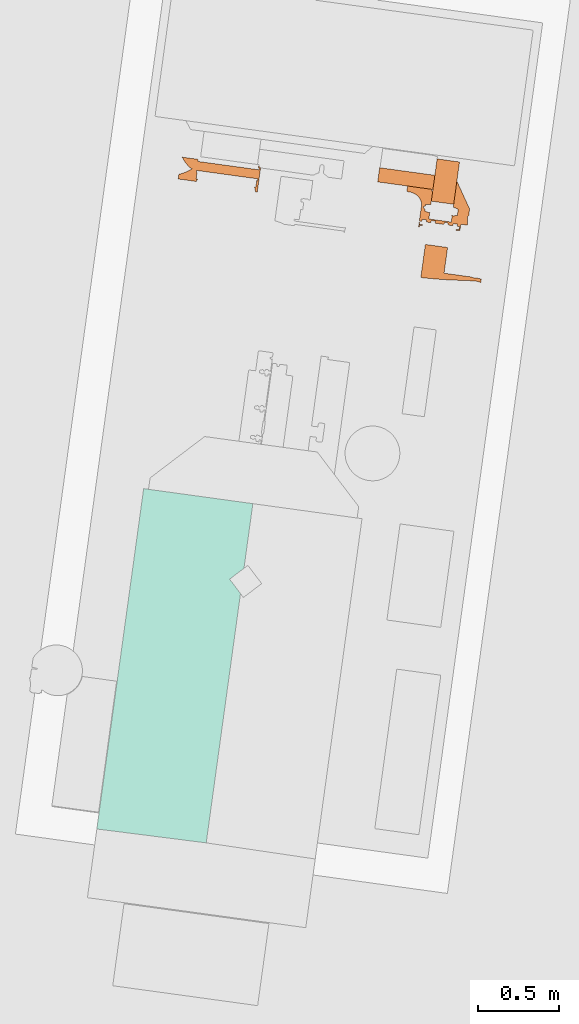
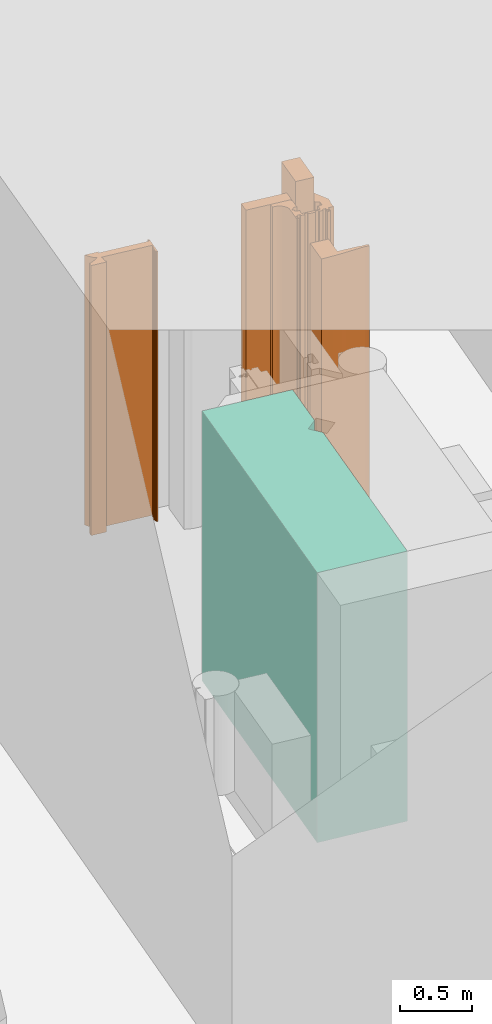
# Not in any storey, part 56 of 75: 5 proxies, plus 1 element that does not belong to this part.
"""IFC4 model written with IfcOpenShell, lengths in metres."""

import ifcopenshell
import ifcopenshell.guid

model = None  # the IFC model being written
_history = None  # IfcOwnerHistory: only IFC2X3 demands one
_inside = {}  # id of a spatial element -> (the spatial element, [elements in it])
_under = {}  # id of a project, library or spatial element -> (it, [spatial elements below it])
_declared = {}  # id of a project -> (the project, [libraries it declares])
_typed = {}  # id of a type object -> (the type object, [elements of that type])
_made_of = {}  # id of a material, layer set ... -> (it, [elements and type objects made of it])


def new_model(schema):
    """Start an empty IFC model of exactly this schema.

    Asked for "IFC4X3", IfcOpenShell would pick the latest addendum, in which some entities
    have other attributes; the version numbers below select the first issue.
    IFC2X3 requires an IfcOwnerHistory on every rooted entity: one is made here for all.
    """
    global model, _history
    if schema == "IFC4X3":
        model = ifcopenshell.file(schema_version=(4, 3, 0, 0))
    else:
        model = ifcopenshell.file(schema=schema)
    _inside.clear()
    _under.clear()
    _declared.clear()
    _typed.clear()
    _made_of.clear()
    _history = None
    if model.schema == "IFC2X3":
        org = make("IfcOrganization", Name="unknown")
        user = make(
            "IfcPersonAndOrganization",
            ThePerson=make("IfcPerson", FamilyName="unknown"),
            TheOrganization=org,
        )
        app = make(
            "IfcApplication",
            ApplicationDeveloper=org,
            Version="unknown",
            ApplicationFullName="unknown",
            ApplicationIdentifier="unknown",
        )
        _history = make(
            "IfcOwnerHistory",
            OwningUser=user,
            OwningApplication=app,
            ChangeAction="ADDED",
            CreationDate=0,
        )
    return model


def make(cls, **values):
    """One entity of the class cls with the attributes given. An attribute that is None is left unset."""
    return model.create_entity(
        cls, **{name: value for name, value in values.items() if value is not None}
    )


def rooted(cls, **values):
    """An entity with a GlobalId (a new one), such as an element, a storey or a relation."""
    return make(cls, GlobalId=ifcopenshell.guid.new(), OwnerHistory=_history, **values)


def si_unit(unit_type, name, prefix=None):
    """IfcSIUnit, for example si_unit("LENGTHUNIT", "METRE", prefix="MILLI")."""
    return make("IfcSIUnit", UnitType=unit_type, Prefix=prefix, Name=name)


def assignment(units):
    """IfcUnitAssignment: the units of a project."""
    return None if units is None else make("IfcUnitAssignment", Units=units)


def point(xyz):
    """IfcCartesianPoint."""
    return None if xyz is None else make("IfcCartesianPoint", Coordinates=xyz)


def direction(xyz):
    """IfcDirection."""
    return None if xyz is None else make("IfcDirection", DirectionRatios=xyz)


def frame(location, z_axis=None, x_axis=None):
    """IfcAxis2Placement3D, a coordinate frame: its origin and axes. An axis left out is left unset."""
    return make(
        "IfcAxis2Placement3D",
        Location=point(location),
        Axis=direction(z_axis),
        RefDirection=direction(x_axis),
    )


def origin_with_axes():
    """The frame at (0, 0, 0) with the z axis (0, 0, 1) and the x axis (1, 0, 0) written out."""
    return frame((0.0, 0.0, 0.0), z_axis=(0.0, 0.0, 1.0), x_axis=(1.0, 0.0, 0.0))


def place(relative_to, where):
    """IfcLocalPlacement: puts the frame where relative to a parent placement (None: the world)."""
    return make(
        "IfcLocalPlacement", PlacementRelTo=relative_to, RelativePlacement=where
    )


def context(
    kind, dimensions, precision=None, world=None, true_north=None, identifier=None
):
    """IfcGeometricRepresentationContext, for example the 3D "Model" context."""
    return make(
        "IfcGeometricRepresentationContext",
        ContextIdentifier=identifier,
        ContextType=kind,
        CoordinateSpaceDimension=dimensions,
        Precision=precision,
        WorldCoordinateSystem=world,
        TrueNorth=true_north,
    )


def subcontext(parent, identifier, kind, view, scale=None):
    """IfcGeometricRepresentationSubContext, for example "Body" below "Model"."""
    return make(
        "IfcGeometricRepresentationSubContext",
        ContextIdentifier=identifier,
        ContextType=kind,
        ParentContext=parent,
        TargetScale=scale,
        TargetView=view,
    )


def project(units=None, contexts=None):
    """IfcProject with its units and contexts."""
    return rooted(
        "IfcProject",
        Name="project",
        RepresentationContexts=contexts,
        UnitsInContext=assignment(units),
    )


def spatial(cls, under=None, at=None, **own):
    """A site, building, storey or space (cls), placed at a placement, below another one or the project."""
    s = rooted(cls, ObjectPlacement=at, **own)
    if under is not None:
        _under.setdefault(under.id(), (under, []))[1].append(s)
    return s


def point_list(points):
    """IfcCartesianPointList2D or 3D."""
    cls = (
        "IfcCartesianPointList2D" if len(points[0]) == 2 else "IfcCartesianPointList3D"
    )
    return make(cls, CoordList=points)


def triangles(points, corners, closed=None, point_numbers=None):
    """IfcTriangulatedFaceSet: each triangle names its three corners, points numbered from 1."""
    return make(
        "IfcTriangulatedFaceSet",
        Coordinates=point_list(points),
        Closed=closed,
        CoordIndex=corners,
        PnIndex=point_numbers,
    )


def shape(context_of_items, identifier, shape_type, items):
    """IfcShapeRepresentation: the items that make up one representation, for example the "Body"."""
    return make(
        "IfcShapeRepresentation",
        ContextOfItems=context_of_items,
        RepresentationIdentifier=identifier,
        RepresentationType=shape_type,
        Items=items,
    )


def made_of(thing, what):
    """Note that an element or type object is made of a material, layer set ...; save() writes the relation."""
    if what is not None:
        _made_of.setdefault(what.id(), (what, []))[1].append(thing)
    return thing


def element(
    cls,
    number,
    at=None,
    inside=None,
    cuts=None,
    type_object=None,
    material=None,
    context=None,
    identifier="Body",
    shape_type=None,
    held_by="IfcProductDefinitionShape",
    body=None,
    shapes=None,
    **own,
):
    """One element of the class cls, such as IfcWall. Its Tag is "e" and its number.

    at: its placement. inside: the storey or other place that contains it. cuts: it is an
    opening in that element (IfcRelVoidsElement). A single representation is given by context,
    identifier, shape_type and body (its items); several are given by shapes. held_by: the class
    of the entity that holds the representations. save() writes the other relations.
    """
    e = rooted(cls, Tag="e%d" % number, ObjectPlacement=at, **own)
    if body is not None:
        shapes = [shape(context, identifier, shape_type, body)]
    if shapes is not None:
        e.Representation = make(held_by, Representations=shapes)
    if inside is not None:
        _inside.setdefault(inside.id(), (inside, []))[1].append(e)
    if cuts is not None:
        rooted(
            "IfcRelVoidsElement", RelatingBuildingElement=cuts, RelatedOpeningElement=e
        )
    if type_object is not None:
        _typed.setdefault(type_object.id(), (type_object, []))[1].append(e)
    return made_of(e, material)


def aggregate(whole, parts):
    """IfcRelAggregates: a whole, such as a stair, and the parts it consists of."""
    return rooted("IfcRelAggregates", RelatingObject=whole, RelatedObjects=parts)


def save(model, path):
    """Write the relations noted so far, then the file.

    IfcRelAggregates (storeys below a building ...), IfcRelContainedInSpatialStructure (elements
    in a storey), IfcRelDefinesByType, IfcRelAssociatesMaterial and IfcRelDeclares: one each for
    every whole, place, type object, material and project.
    """
    for whole, parts in _under.values():
        aggregate(whole, parts)
    for where, things in _inside.values():
        rooted(
            "IfcRelContainedInSpatialStructure",
            RelatedElements=things,
            RelatingStructure=where,
        )
    for kind, things in _typed.values():
        rooted("IfcRelDefinesByType", RelatedObjects=things, RelatingType=kind)
    for what, things in _made_of.values():
        rooted("IfcRelAssociatesMaterial", RelatedObjects=things, RelatingMaterial=what)
    for by, libraries in _declared.values():
        rooted("IfcRelDeclares", RelatingContext=by, RelatedDefinitions=libraries)
    model.write(path)


model = new_model("IFC4")

# Units and contexts
model_context = context("Model", 3, precision=1e-05, world=origin_with_axes(), true_north=direction((0.0, 1.0)))
body_context = subcontext(model_context, "Body", "Model", "MODEL_VIEW")
ifc_project = project(units=[si_unit("AREAUNIT", "SQUARE_METRE"), si_unit("VOLUMEUNIT", "CUBIC_METRE"), si_unit("LENGTHUNIT", "METRE")], contexts=[model_context])

# Site
site_placement = place(None, origin_with_axes())
site = spatial("IfcSite", under=ifc_project, at=site_placement, Name="Parcela industrial Jinhong")

# Compressor, proxies
compressor_placement = place(site_placement, origin_with_axes())
compressor = element("IfcCompressor", 1, at=compressor_placement, inside=site, Name="Compresor de aire AC1001C · Carcasa principal · región CAD 1", ObjectType="Envolvente de equipo", PredefinedType="USERDEFINED", context=body_context, shape_type="Tessellation", body=[
    triangles([(62.203534, 71.486232, 3.95), (61.527692, 71.57915, 3.95), (62.148549, 71.086294, 3.95), (61.527692, 71.57915, 1.65), (62.203534, 71.486232, 1.65), (62.148549, 71.086294, 1.65), (61.238041, 69.472368, 3.95), (61.914823, 69.386286, 3.95), (61.914823, 69.386286, 1.65), (61.238041, 69.472368, 1.65), (62.059412, 71.018705, 3.95), (62.127001, 70.929568, 3.95), (62.127001, 70.929568, 1.65), (62.059412, 71.018705, 1.65)], [[1, 2, 3], [4, 5, 6], [2, 7, 8], [9, 10, 4], [8, 12, 11], [13, 9, 14], [3, 2, 11], [4, 6, 14], [2, 8, 11], [14, 9, 4], [4, 10, 7], [4, 7, 2], [10, 9, 8], [10, 8, 7], [9, 13, 12], [9, 12, 8], [11, 13, 14], [11, 12, 13], [14, 6, 3], [14, 3, 11], [6, 5, 1], [1, 3, 6], [5, 4, 2], [5, 2, 1]], closed=True),
])
proxy_1_placement = place(compressor_placement, origin_with_axes())
proxy_1 = element("IfcBuildingElementProxy", 2, at=proxy_1_placement, Name="Compresor de aire AC1001C · Cuerpo de equipo · región CAD 26", context=body_context, shape_type="Tessellation", body=[
    triangles([(63.344493, 73.62072, 4.2), (63.308508, 73.358982, 4.2), (63.447104, 73.339928, 4.2), (63.344493, 73.62072, 1.65), (63.447104, 73.339928, 1.65), (63.308508, 73.358982, 1.65), (63.483089, 73.601665, 4.2), (63.483089, 73.601665, 1.65)], [[1, 2, 3], [4, 5, 6], [3, 7, 1], [5, 4, 8], [5, 8, 7], [5, 7, 3], [8, 4, 1], [8, 1, 7], [2, 4, 6], [4, 2, 1], [6, 5, 3], [6, 3, 2]], closed=True),
])
proxy_2_placement = place(compressor_placement, origin_with_axes())
proxy_2 = element("IfcBuildingElementProxy", 3, at=proxy_2_placement, Name="Compresor de aire AC1001C · Cuerpo de equipo · región CAD 27", context=body_context, shape_type="Tessellation", body=[
    triangles([(63.559689, 72.889394, 3.85), (63.387509, 72.913067, 3.85), (63.559113, 72.885202, 3.85), (63.387509, 72.913067, 1.65), (63.559689, 72.889394, 1.65), (63.559113, 72.885202, 1.65), (63.409397, 73.072269, 3.85), (63.271692, 73.091201, 3.85), (63.271692, 73.091201, 1.65), (63.409397, 73.072269, 1.65), (63.243467, 72.885908, 3.85), (63.336036, 72.877143, 3.85), (63.336036, 72.877143, 1.65), (63.243467, 72.885908, 1.65), (63.434482, 72.871481, 3.85), (63.40379, 72.872168, 3.85), (63.40379, 72.872168, 1.65), (63.434482, 72.871481, 1.65), (63.546954, 72.866516, 3.85), (63.487574, 72.868522, 3.85), (63.487574, 72.868522, 1.65), (63.546954, 72.866516, 1.65), (63.617922, 72.876846, 3.85), (63.600088, 72.860927, 3.85), (63.614946, 72.855568, 3.85), (63.600088, 72.860927, 1.65), (63.617922, 72.876846, 1.65), (63.614946, 72.855568, 1.65), (63.59135, 72.883803, 3.85), (63.587876, 72.883702, 3.85), (63.587876, 72.883702, 1.65), (63.59135, 72.883803, 1.65), (63.586673, 72.884546, 3.85), (63.586673, 72.884546, 1.65), (63.582068, 72.864212, 3.85), (63.582068, 72.864212, 1.65)], [[1, 2, 3], [4, 5, 6], [2, 7, 8], [9, 10, 4], [8, 11, 12], [13, 14, 9], [16, 15, 12], [17, 13, 18], [20, 19, 15], [21, 18, 22], [23, 24, 25], [26, 27, 28], [23, 29, 30], [31, 32, 27], [30, 33, 3], [6, 34, 31], [12, 2, 8], [4, 13, 9], [15, 19, 12], [18, 13, 22], [24, 23, 35], [36, 27, 26], [30, 3, 23], [27, 6, 31], [3, 2, 12], [13, 4, 6], [23, 19, 35], [36, 22, 27], [23, 3, 12], [13, 6, 27], [19, 23, 12], [22, 13, 27], [4, 10, 7], [4, 7, 2], [10, 9, 8], [10, 8, 7], [9, 14, 11], [9, 11, 8], [14, 13, 12], [14, 12, 11], [16, 13, 17], [16, 12, 13], [15, 17, 18], [15, 16, 17], [20, 18, 21], [20, 15, 18], [19, 21, 22], [19, 20, 21], [35, 22, 36], [35, 19, 22], [36, 26, 24], [36, 24, 35], [25, 26, 28], [26, 25, 24], [28, 27, 23], [23, 25, 28], [29, 27, 32], [29, 23, 27], [32, 31, 30], [32, 30, 29], [33, 31, 34], [33, 30, 31], [34, 6, 3], [34, 3, 33], [6, 5, 1], [1, 3, 6], [5, 4, 2], [5, 2, 1]], closed=True),
])
proxy_3_placement = place(compressor_placement, origin_with_axes())
proxy_3 = element("IfcBuildingElementProxy", 4, at=proxy_3_placement, Name="Compresor de aire AC1001C · Cuerpo de equipo · región CAD 28", context=body_context, shape_type="Tessellation", body=[
    triangles([(63.384333, 73.215215, 4.0), (63.335549, 73.224547, 4.0), (63.335195, 73.221971, 4.0), (63.335549, 73.224547, 1.65), (63.384333, 73.215215, 1.65), (63.335195, 73.221971, 1.65), (63.389584, 73.227716, 4.0), (63.384687, 73.217791, 4.0), (63.388154, 73.217314, 4.0), (63.389584, 73.227716, 1.65), (63.388154, 73.217314, 1.65), (63.384687, 73.217791, 1.65), (63.413658, 73.224406, 4.0), (63.412228, 73.214004, 4.0), (63.414804, 73.21365, 4.0), (63.413658, 73.224406, 1.65), (63.414804, 73.21365, 1.65), (63.412228, 73.214004, 1.65), (63.441099, 73.207411, 4.0), (63.41445, 73.211074, 4.0), (63.41445, 73.211074, 1.65), (63.441099, 73.207411, 1.65), (63.44425, 73.21051, 4.0), (63.441453, 73.209986, 4.0), (63.444128, 73.209619, 4.0), (63.441453, 73.209986, 1.65), (63.44425, 73.21051, 1.65), (63.444128, 73.209619, 1.65), (63.470008, 73.206969, 4.0), (63.468324, 73.2072, 4.0), (63.468201, 73.206309, 4.0), (63.468324, 73.2072, 1.65), (63.470008, 73.206969, 1.65), (63.468201, 73.206309, 1.65), (63.483302, 73.201608, 4.0), (63.470777, 73.205955, 4.0), (63.470423, 73.203379, 4.0), (63.470777, 73.205955, 1.65), (63.483302, 73.201608, 1.65), (63.470423, 73.203379, 1.65), (63.4807, 73.182686, 4.0), (63.460887, 73.18541, 4.0), (63.460056, 73.179367, 4.0), (63.460887, 73.18541, 1.65), (63.4807, 73.182686, 1.65), (63.460056, 73.179367, 1.65), (63.533178, 73.264097, 4.0), (63.491483, 73.216331, 4.0), (63.531111, 73.210883, 4.0), (63.533178, 73.264097, 1.65), (63.531111, 73.210883, 1.65), (63.491483, 73.216331, 1.65), (63.545732, 73.310621, 4.0), (63.535339, 73.267333, 4.0), (63.540052, 73.26931, 4.0), (63.545732, 73.310621, 1.65), (63.540052, 73.26931, 1.65), (63.535339, 73.267333, 1.65), (63.466758, 73.482883, 4.0), (63.44438, 73.320114, 4.0), (63.44438, 73.320114, 1.65), (63.466758, 73.482883, 1.65), (63.441804, 73.320468, 4.0), (63.441695, 73.319676, 4.0), (63.441695, 73.319676, 1.65), (63.441804, 73.320468, 1.65), (63.472394, 73.288201, 4.0), (63.474449, 73.309015, 4.0), (63.472555, 73.295245, 4.0), (63.474449, 73.309015, 1.65), (63.472394, 73.288201, 1.65), (63.472555, 73.295245, 1.65), (63.469232, 73.271072, 4.0), (63.471139, 73.284942, 4.0), (63.471139, 73.284942, 1.65), (63.469232, 73.271072, 1.65), (63.447709, 73.267975, 4.0), (63.434831, 73.269745, 4.0), (63.434354, 73.266278, 4.0), (63.434831, 73.269745, 1.65), (63.447709, 73.267975, 1.65), (63.434354, 73.266278, 1.65), (63.43362, 73.24185, 4.0), (63.431837, 73.242095, 4.0), (63.433375, 73.240067, 4.0), (63.431837, 73.242095, 1.65), (63.43362, 73.24185, 1.65), (63.433375, 73.240067, 1.65), (63.296708, 73.260674, 4.0), (63.295024, 73.260905, 4.0), (63.294779, 73.259122, 4.0), (63.295024, 73.260905, 1.65), (63.296708, 73.260674, 1.65), (63.294779, 73.259122, 1.65), (63.301386, 73.288092, 4.0), (63.298333, 73.284979, 4.0), (63.300909, 73.284625, 4.0), (63.301386, 73.288092, 1.65), (63.300909, 73.284625, 1.65), (63.298333, 73.284979, 1.65), (63.269158, 73.309178, 4.0), (63.268266, 73.309301, 4.0), (63.267727, 73.298776, 4.0), (63.268266, 73.309301, 1.65), (63.269158, 73.309178, 1.65), (63.267727, 73.298776, 1.65), (63.266044, 73.31223, 4.0), (63.26436, 73.312462, 4.0), (63.26436, 73.312462, 1.65), (63.266044, 73.31223, 1.65), (63.262931, 73.315283, 4.0), (63.260478, 73.316529, 4.0), (63.260478, 73.316529, 1.65), (63.262931, 73.315283, 1.65), (63.266608, 73.328808, 4.0), (63.26087, 73.325257, 4.0), (63.263555, 73.325695, 4.0), (63.26087, 73.325257, 1.65), (63.266608, 73.328808, 1.65), (63.263555, 73.325695, 1.65), (63.272944, 73.336719, 4.0), (63.271759, 73.3281, 4.0), (63.271759, 73.3281, 1.65), (63.272944, 73.336719, 1.65), (63.307468, 73.338937, 4.0), (63.29448, 73.339915, 4.0), (63.307359, 73.338145, 4.0), (63.29448, 73.339915, 1.65), (63.307468, 73.338937, 1.65), (63.307359, 73.338145, 1.65), (63.306364, 73.432964, 4.0), (63.305784, 73.339169, 4.0), (63.316449, 73.416739, 4.0), (63.306364, 73.432964, 1.65), (63.316449, 73.416739, 1.65), (63.305784, 73.339169, 1.65), (63.161725, 73.45285, 4.0), (63.156999, 73.418473, 4.0), (63.156999, 73.418473, 1.65), (63.161725, 73.45285, 1.65), (63.236261, 73.210136, 4.0), (63.22957, 73.199649, 4.0), (63.234722, 73.198941, 4.0), (63.236261, 73.210136, 1.65), (63.234722, 73.198941, 1.65), (63.22957, 73.199649, 1.65), (63.253438, 73.213931, 4.0), (63.252607, 73.207888, 4.0), (63.252607, 73.207888, 1.65), (63.253438, 73.213931, 1.65), (63.249459, 73.236383, 4.0), (63.236226, 73.235578, 4.0), (63.249105, 73.233807, 4.0), (63.236226, 73.235578, 1.65), (63.249459, 73.236383, 1.65), (63.249105, 73.233807, 1.65), (63.252157, 73.23692, 4.0), (63.252035, 73.236029, 4.0), (63.252035, 73.236029, 1.65), (63.252157, 73.23692, 1.65), (63.278014, 73.233365, 4.0), (63.27633, 73.233597, 4.0), (63.276207, 73.232705, 4.0), (63.27633, 73.233597, 1.65), (63.278014, 73.233365, 1.65), (63.276207, 73.232705, 1.65), (63.305078, 73.226111, 4.0), (63.278783, 73.232351, 4.0), (63.278429, 73.229775, 4.0), (63.278783, 73.232351, 1.65), (63.305078, 73.226111, 1.65), (63.278429, 73.229775, 1.65), (63.308131, 73.229225, 4.0), (63.305432, 73.228687, 4.0), (63.308008, 73.228333, 4.0), (63.305432, 73.228687, 1.65), (63.308131, 73.229225, 1.65), (63.308008, 73.228333, 1.65), (63.333611, 73.235412, 4.0), (63.333488, 73.23452, 4.0), (63.33505, 73.233397, 4.0), (63.333611, 73.235412, 1.65), (63.33505, 73.233397, 1.65), (63.333488, 73.23452, 1.65), (63.333988, 73.22567, 4.0), (63.332303, 73.225901, 4.0), (63.332181, 73.22501, 4.0), (63.332303, 73.225901, 1.65), (63.333988, 73.22567, 1.65), (63.332181, 73.22501, 1.65), (63.443359, 73.210633, 4.0), (63.443359, 73.210633, 1.65), (63.485913, 73.175812, 4.0), (63.485913, 73.175812, 1.65), (63.43693, 73.265924, 4.0), (63.43693, 73.265924, 1.65), (63.287615, 73.289985, 4.0), (63.287615, 73.289985, 1.65), (63.187884, 73.413318, 4.0), (63.187884, 73.413318, 1.65), (63.233625, 73.216656, 4.0), (63.233625, 73.216656, 1.65), (63.307338, 73.229334, 4.0), (63.307338, 73.229334, 1.65), (63.444421, 73.21836, 4.0), (63.444421, 73.21836, 1.65), (63.47107, 73.214696, 4.0), (63.47107, 73.214696, 1.65), (63.454574, 73.317905, 4.0), (63.454574, 73.317905, 1.65), (63.204414, 73.405797, 4.0), (63.204414, 73.405797, 1.65), (63.250473, 73.237152, 4.0), (63.250473, 73.237152, 1.65), (63.279077, 73.241093, 4.0), (63.279077, 73.241093, 1.65), (63.259148, 73.319336, 4.0), (63.259148, 73.319336, 1.65), (63.218806, 73.395945, 4.0), (63.218806, 73.395945, 1.65), (63.247454, 73.329726, 4.0), (63.247454, 73.329726, 1.65), (63.251536, 73.244879, 4.0), (63.251536, 73.244879, 1.65), (63.445558, 73.220021, 4.0), (63.445558, 73.220021, 1.65), (63.293362, 73.248819, 4.0), (63.293362, 73.248819, 1.65), (63.230378, 73.384663, 4.0), (63.230378, 73.384663, 1.65), (63.253465, 73.246431, 4.0), (63.253465, 73.246431, 1.65), (63.277638, 73.243107, 4.0), (63.277638, 73.243107, 1.65), (63.46874, 73.216834, 4.0), (63.46874, 73.216834, 1.65), (63.431958, 73.229764, 4.0), (63.431958, 73.229764, 1.65), (63.239911, 73.371038, 4.0), (63.239911, 73.371038, 1.65), (63.308401, 73.237061, 4.0), (63.308401, 73.237061, 1.65), (63.248456, 73.343619, 4.0), (63.248456, 73.343619, 1.65), (63.31033, 73.238613, 4.0), (63.31033, 73.238613, 1.65), (63.245197, 73.358097, 4.0), (63.245197, 73.358097, 1.65)], [[1, 2, 3], [4, 5, 6], [7, 8, 9], [10, 11, 12], [13, 14, 15], [16, 17, 18], [20, 19, 15], [21, 17, 22], [23, 24, 25], [26, 27, 28], [29, 30, 31], [32, 33, 34], [35, 36, 37], [38, 39, 40], [41, 42, 43], [44, 45, 46], [47, 48, 49], [50, 51, 52], [53, 54, 55], [56, 57, 58], [60, 53, 59], [62, 56, 61], [60, 63, 64], [65, 66, 61], [67, 68, 69], [70, 71, 72], [74, 73, 67], [75, 71, 76], [77, 78, 79], [80, 81, 82], [83, 84, 85], [86, 87, 88], [89, 90, 91], [92, 93, 94], [95, 96, 97], [98, 99, 100], [101, 102, 103], [104, 105, 106], [102, 107, 108], [109, 110, 104], [108, 111, 112], [113, 114, 109], [115, 116, 117], [118, 119, 120], [115, 122, 121], [123, 119, 124], [125, 126, 127], [128, 129, 130], [131, 132, 133], [134, 135, 136], [131, 137, 138], [139, 140, 134], [141, 142, 143], [144, 145, 146], [148, 147, 141], [149, 144, 150], [151, 152, 153], [154, 155, 156], [158, 157, 151], [159, 155, 160], [161, 162, 163], [164, 165, 166], [167, 168, 169], [170, 171, 172], [173, 174, 175], [176, 177, 178], [179, 180, 181], [182, 183, 184], [185, 186, 187], [188, 189, 190], [8, 2, 1], [5, 4, 12], [15, 19, 13], [17, 16, 22], [23, 191, 24], [26, 192, 27], [29, 31, 36], [34, 33, 38], [41, 43, 193], [46, 45, 194], [54, 48, 47], [52, 58, 50], [53, 60, 64], [65, 61, 56], [77, 79, 195], [82, 81, 196], [96, 95, 197], [100, 198, 98], [103, 102, 108], [106, 109, 104], [121, 116, 115], [119, 118, 124], [132, 126, 125], [129, 128, 136], [131, 138, 199], [200, 139, 134], [141, 147, 201], [202, 150, 144], [157, 152, 151], [155, 154, 160], [161, 163, 168], [166, 165, 170], [174, 168, 167], [171, 170, 176], [173, 203, 174], [176, 204, 177], [2, 185, 187], [190, 189, 4], [8, 7, 2], [12, 4, 10], [19, 24, 13], [22, 16, 26], [24, 191, 205], [206, 192, 26], [207, 29, 36], [38, 33, 208], [35, 41, 193], [194, 45, 39], [48, 54, 53], [58, 52, 56], [53, 64, 209], [210, 65, 56], [77, 195, 73], [81, 76, 196], [90, 96, 197], [198, 100, 92], [108, 112, 103], [109, 106, 113], [126, 132, 131], [136, 128, 134], [131, 199, 211], [212, 200, 134], [201, 142, 141], [202, 144, 146], [157, 213, 152], [154, 214, 160], [215, 161, 168], [170, 165, 216], [174, 203, 168], [176, 170, 204], [185, 2, 181], [4, 189, 183], [24, 205, 13], [26, 16, 206], [36, 35, 207], [208, 39, 38], [35, 193, 48], [52, 194, 39], [68, 53, 209], [70, 210, 56], [83, 73, 195], [87, 196, 76], [197, 91, 90], [94, 198, 92], [112, 217, 103], [113, 106, 218], [121, 126, 131], [134, 128, 124], [131, 211, 219], [220, 212, 134], [201, 221, 142], [202, 146, 222], [213, 223, 152], [214, 154, 224], [203, 215, 168], [170, 216, 204], [7, 181, 2], [4, 183, 10], [205, 225, 13], [206, 16, 226], [48, 207, 35], [39, 208, 52], [48, 53, 68], [70, 56, 52], [73, 83, 85], [87, 76, 88], [197, 227, 91], [94, 228, 198], [116, 121, 131], [134, 124, 118], [131, 219, 229], [230, 220, 134], [221, 201, 152], [154, 202, 222], [223, 231, 152], [224, 154, 232], [215, 203, 233], [216, 234, 204], [181, 7, 179], [183, 182, 10], [207, 48, 235], [208, 236, 52], [67, 48, 68], [70, 52, 71], [73, 85, 237], [238, 88, 76], [227, 197, 103], [106, 198, 228], [131, 229, 239], [240, 230, 134], [152, 231, 221], [232, 154, 222], [203, 241, 233], [234, 242, 204], [235, 48, 225], [226, 52, 236], [73, 48, 67], [52, 76, 71], [116, 131, 239], [240, 134, 118], [231, 243, 221], [222, 244, 232], [241, 245, 233], [242, 234, 246], [48, 13, 225], [226, 16, 52], [237, 48, 73], [52, 238, 76], [116, 239, 247], [248, 240, 118], [243, 231, 233], [234, 232, 244], [13, 48, 7], [16, 10, 52], [227, 48, 237], [238, 52, 228], [217, 116, 247], [248, 118, 218], [243, 233, 247], [244, 248, 234], [48, 179, 7], [10, 182, 52], [217, 247, 233], [234, 248, 218], [179, 48, 245], [182, 246, 52], [103, 217, 233], [234, 218, 106], [245, 48, 233], [234, 52, 246], [103, 233, 227], [228, 234, 106], [48, 227, 233], [234, 228, 52], [6, 5, 1], [1, 3, 6], [5, 12, 8], [5, 8, 1], [12, 11, 9], [12, 9, 8], [11, 10, 7], [7, 9, 11], [13, 10, 16], [13, 7, 10], [14, 16, 18], [16, 14, 13], [18, 17, 15], [18, 15, 14], [17, 21, 20], [17, 20, 15], [19, 21, 22], [19, 20, 21], [22, 26, 24], [22, 24, 19], [25, 26, 28], [26, 25, 24], [28, 27, 23], [23, 25, 28], [191, 27, 192], [191, 23, 27], [192, 206, 205], [192, 205, 191], [206, 226, 225], [206, 225, 205], [235, 226, 236], [235, 225, 226], [236, 208, 207], [236, 207, 235], [208, 33, 29], [208, 29, 207], [33, 32, 30], [33, 30, 29], [31, 32, 34], [32, 31, 30], [36, 34, 38], [36, 31, 34], [37, 38, 40], [38, 37, 36], [40, 39, 35], [35, 37, 40], [39, 45, 41], [39, 41, 35], [45, 44, 42], [45, 42, 41], [43, 44, 46], [44, 43, 42], [193, 46, 194], [193, 43, 46], [194, 52, 48], [194, 48, 193], [52, 51, 49], [52, 49, 48], [51, 50, 47], [47, 49, 51], [50, 58, 54], [50, 54, 47], [58, 57, 55], [58, 55, 54], [57, 56, 53], [53, 55, 57], [56, 62, 59], [56, 59, 53], [62, 61, 60], [62, 60, 59], [63, 61, 66], [63, 60, 61], [66, 65, 64], [66, 64, 63], [209, 65, 210], [209, 64, 65], [210, 70, 68], [210, 68, 209], [69, 70, 72], [70, 69, 68], [72, 71, 67], [67, 69, 72], [71, 75, 74], [71, 74, 67], [73, 75, 76], [73, 74, 75], [77, 76, 81], [77, 73, 76], [81, 80, 78], [81, 78, 77], [79, 80, 82], [80, 79, 78], [195, 82, 196], [195, 79, 82], [196, 87, 83], [196, 83, 195], [87, 86, 84], [87, 84, 83], [85, 86, 88], [86, 85, 84], [88, 238, 237], [88, 237, 85], [238, 228, 227], [238, 227, 237], [228, 94, 91], [228, 91, 227], [94, 93, 89], [89, 91, 94], [93, 92, 90], [93, 90, 89], [92, 100, 96], [92, 96, 90], [100, 99, 97], [100, 97, 96], [99, 98, 95], [95, 97, 99], [197, 98, 198], [197, 95, 98], [198, 106, 103], [198, 103, 197], [106, 105, 101], [101, 103, 106], [105, 104, 102], [105, 102, 101], [104, 110, 107], [104, 107, 102], [110, 109, 108], [110, 108, 107], [109, 114, 111], [109, 111, 108], [114, 113, 112], [114, 112, 111], [113, 218, 217], [113, 217, 112], [218, 118, 116], [218, 116, 217], [117, 118, 120], [118, 117, 116], [120, 119, 115], [115, 117, 120], [122, 119, 123], [122, 115, 119], [121, 123, 124], [121, 122, 123], [126, 124, 128], [126, 121, 124], [127, 128, 130], [128, 127, 126], [130, 129, 125], [125, 127, 130], [132, 129, 136], [132, 125, 129], [136, 135, 133], [136, 133, 132], [135, 134, 131], [131, 133, 135], [137, 134, 140], [137, 131, 134], [140, 139, 138], [140, 138, 137], [199, 139, 200], [199, 138, 139], [211, 200, 212], [211, 199, 200], [219, 212, 220], [219, 211, 212], [229, 220, 230], [229, 219, 220], [230, 240, 239], [230, 239, 229], [240, 248, 247], [240, 247, 239], [248, 244, 243], [248, 243, 247], [244, 222, 221], [244, 221, 243], [222, 146, 142], [222, 142, 221], [146, 145, 143], [146, 143, 142], [145, 144, 141], [141, 143, 145], [148, 144, 149], [148, 141, 144], [147, 149, 150], [147, 148, 149], [201, 150, 202], [201, 147, 150], [202, 154, 152], [202, 152, 201], [153, 154, 156], [154, 153, 152], [156, 155, 151], [151, 153, 156], [158, 155, 159], [158, 151, 155], [157, 159, 160], [157, 158, 159], [213, 160, 214], [213, 157, 160], [214, 224, 223], [214, 223, 213], [231, 224, 232], [231, 223, 224], [233, 232, 234], [233, 231, 232], [234, 216, 215], [234, 215, 233], [216, 165, 161], [216, 161, 215], [165, 164, 162], [165, 162, 161], [163, 164, 166], [164, 163, 162], [168, 166, 170], [168, 163, 166], [169, 170, 172], [170, 169, 168], [172, 171, 167], [167, 169, 172], [171, 176, 174], [171, 174, 167], [175, 176, 178], [176, 175, 174], [178, 177, 173], [173, 175, 178], [203, 177, 204], [203, 173, 177], [204, 242, 241], [204, 241, 203], [245, 242, 246], [245, 241, 242], [246, 182, 179], [246, 179, 245], [180, 182, 184], [182, 180, 179], [184, 183, 181], [184, 181, 180], [183, 189, 185], [183, 185, 181], [189, 188, 186], [189, 186, 185], [187, 188, 190], [188, 187, 186], [190, 4, 2], [190, 2, 187], [3, 4, 6], [4, 3, 2]], closed=True),
])
proxy_4_placement = place(compressor_placement, origin_with_axes())
proxy_4 = element("IfcBuildingElementProxy", 5, at=proxy_4_placement, Name="Compresor de aire AC1001C · Cuerpo de equipo · región CAD 29", context=body_context, shape_type="Tessellation", body=[
    triangles([(62.230883, 73.414174, 3.95), (62.219859, 73.423563, 3.95), (62.220807, 73.415559, 3.95), (62.219859, 73.423563, 1.65), (62.230883, 73.414174, 1.65), (62.220807, 73.415559, 1.65), (62.251599, 73.564856, 3.95), (62.240028, 73.576137, 3.95), (62.238489, 73.564943, 3.95), (62.240028, 73.576137, 1.65), (62.251599, 73.564856, 1.65), (62.238489, 73.564943, 1.65), (61.869295, 73.617417, 3.95), (61.864804, 73.616319, 3.95), (61.869064, 73.615733, 3.95), (61.864804, 73.616319, 1.65), (61.869295, 73.617417, 1.65), (61.869064, 73.615733, 1.65), (61.765967, 73.631623, 3.95), (61.781556, 73.604043, 3.95), (61.781556, 73.604043, 1.65), (61.765967, 73.631623, 1.65), (61.815674, 73.565133, 3.95), (61.80166, 73.578467, 3.95), (61.80166, 73.578467, 1.65), (61.815674, 73.565133, 1.65), (61.829091, 73.560664, 3.95), (61.823817, 73.560481, 3.95), (61.823817, 73.560481, 1.65), (61.829091, 73.560664, 1.65), (61.778143, 73.535166, 3.95), (61.759942, 73.529795, 3.95), (61.759465, 73.526328, 3.95), (61.759942, 73.529795, 1.65), (61.778143, 73.535166, 1.65), (61.759465, 73.526328, 1.65), (61.75253, 73.527281, 3.95), (61.745463, 73.526537, 3.95), (61.745463, 73.526537, 1.65), (61.75253, 73.527281, 1.65), (61.854954, 73.480797, 3.95), (61.741323, 73.49642, 3.95), (61.741323, 73.49642, 1.65), (61.854954, 73.480797, 1.65), (61.861338, 73.495666, 3.95), (61.85637, 73.491101, 3.95), (61.86063, 73.490515, 3.95), (61.85637, 73.491101, 1.65), (61.861338, 73.495666, 1.65), (61.86063, 73.490515, 1.65), (61.858168, 73.536479, 3.95), (61.853908, 73.537064, 3.95), (61.852719, 73.496851, 3.95), (61.853908, 73.537064, 1.65), (61.858168, 73.536479, 1.65), (61.852719, 73.496851, 1.65), (62.232744, 73.48498, 3.95), (62.227592, 73.485688, 3.95), (62.222144, 73.446061, 3.95), (62.227592, 73.485688, 1.65), (62.232744, 73.48498, 1.65), (62.222144, 73.446061, 1.65), (62.213525, 73.447246, 3.95), (62.212817, 73.442094, 3.95), (62.212817, 73.442094, 1.65), (62.213525, 73.447246, 1.65), (62.215757, 73.428128, 3.95), (62.217077, 73.441509, 3.95), (62.217077, 73.441509, 1.65), (62.215757, 73.428128, 1.65), (62.24364, 73.564234, 3.95), (62.24364, 73.564234, 1.65), (61.795896, 73.542416, 3.95), (61.795896, 73.542416, 1.65), (62.242101, 73.55304, 3.95), (62.242101, 73.55304, 1.65), (61.863265, 73.605124, 3.95), (61.863265, 73.605124, 1.65), (61.812767, 73.550594, 3.95), (61.812767, 73.550594, 1.65), (62.234406, 73.497066, 3.95), (62.234406, 73.497066, 1.65), (61.855569, 73.549151, 3.95), (61.855569, 73.549151, 1.65)], [[1, 2, 3], [4, 5, 6], [7, 8, 9], [10, 11, 12], [13, 14, 15], [16, 17, 18], [13, 19, 20], [21, 22, 17], [24, 23, 20], [25, 21, 26], [28, 27, 23], [29, 26, 30], [31, 32, 33], [34, 35, 36], [33, 37, 38], [39, 40, 36], [42, 41, 38], [43, 39, 44], [45, 46, 47], [48, 49, 50], [51, 52, 53], [54, 55, 56], [57, 58, 59], [60, 61, 62], [59, 63, 64], [65, 66, 62], [67, 2, 68], [4, 70, 69], [7, 2, 1], [5, 4, 11], [7, 9, 71], [12, 11, 72], [14, 13, 20], [16, 21, 17], [23, 27, 20], [26, 21, 30], [33, 73, 31], [74, 36, 35], [41, 33, 38], [39, 36, 44], [46, 45, 53], [48, 56, 49], [59, 64, 68], [69, 65, 62], [7, 71, 75], [76, 72, 11], [77, 14, 20], [21, 16, 78], [41, 73, 33], [44, 36, 74], [41, 46, 53], [56, 48, 44], [59, 68, 2], [4, 69, 62], [75, 77, 20], [21, 78, 76], [79, 73, 41], [44, 74, 80], [59, 2, 57], [62, 61, 4], [27, 75, 20], [30, 21, 76], [41, 27, 79], [44, 80, 30], [57, 2, 7], [11, 4, 61], [27, 41, 53], [56, 44, 30], [81, 57, 7], [11, 61, 82], [53, 52, 27], [56, 30, 54], [75, 81, 7], [76, 11, 82], [52, 83, 27], [54, 30, 84], [81, 75, 83], [82, 84, 76], [75, 27, 83], [84, 30, 76], [5, 11, 7], [5, 7, 1], [11, 10, 8], [11, 8, 7], [9, 10, 12], [10, 9, 8], [71, 12, 72], [71, 9, 12], [72, 76, 75], [72, 75, 71], [77, 76, 78], [77, 75, 76], [78, 16, 14], [78, 14, 77], [15, 16, 18], [16, 15, 14], [18, 17, 13], [13, 15, 18], [19, 17, 22], [19, 13, 17], [22, 21, 20], [22, 20, 19], [21, 25, 24], [21, 24, 20], [23, 25, 26], [23, 24, 25], [28, 26, 29], [28, 23, 26], [27, 29, 30], [27, 28, 29], [79, 30, 80], [79, 27, 30], [80, 74, 73], [80, 73, 79], [74, 35, 31], [74, 31, 73], [35, 34, 32], [35, 32, 31], [33, 34, 36], [34, 33, 32], [37, 36, 40], [37, 33, 36], [40, 39, 38], [40, 38, 37], [39, 43, 42], [39, 42, 38], [41, 43, 44], [41, 42, 43], [44, 48, 46], [44, 46, 41], [47, 48, 50], [48, 47, 46], [50, 49, 45], [45, 47, 50], [53, 49, 56], [53, 45, 49], [56, 55, 51], [51, 53, 56], [55, 54, 52], [55, 52, 51], [54, 84, 83], [54, 83, 52], [84, 82, 81], [84, 81, 83], [82, 61, 57], [82, 57, 81], [61, 60, 58], [61, 58, 57], [59, 60, 62], [60, 59, 58], [63, 62, 66], [63, 59, 62], [66, 65, 64], [66, 64, 63], [68, 65, 69], [68, 64, 65], [67, 69, 70], [67, 68, 69], [70, 4, 2], [70, 2, 67], [3, 4, 6], [4, 3, 2], [6, 5, 1], [1, 3, 6]], closed=True),
])
proxy_5_placement = place(compressor_placement, origin_with_axes())
proxy_5 = element("IfcBuildingElementProxy", 6, at=proxy_5_placement, Name="Compresor de aire AC1001C · Cuerpo de equipo · región CAD 35", context=body_context, shape_type="Tessellation", body=[
    triangles([(63.330532, 73.519176, 4.0), (62.988648, 73.56618, 4.0), (63.318451, 73.431302, 4.0), (62.988648, 73.56618, 1.65), (63.330532, 73.519176, 1.65), (63.318451, 73.431302, 1.65), (62.976567, 73.478306, 4.0), (62.976567, 73.478306, 1.65)], [[1, 2, 3], [4, 5, 6], [3, 2, 7], [8, 4, 6], [4, 8, 7], [4, 7, 2], [8, 6, 3], [8, 3, 7], [6, 5, 1], [1, 3, 6], [5, 4, 2], [5, 2, 1]], closed=True),
])
aggregate(compressor, [proxy_1, proxy_2, proxy_3, proxy_4, proxy_5])

save(model, "model.ifc")
